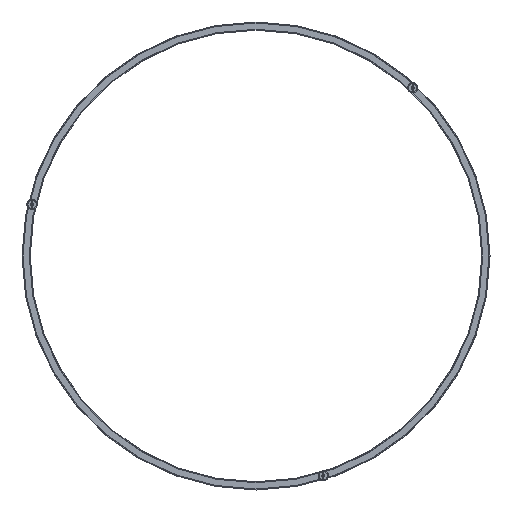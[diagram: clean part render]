
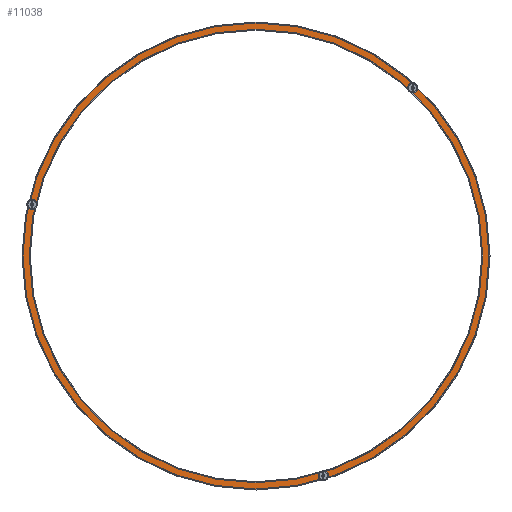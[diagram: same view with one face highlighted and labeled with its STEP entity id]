
A CAD part, front view. The second image highlights one B-rep face of the part: STEP entity #11038.
In plain terms, the highlighted planar face has unit normal (0, -1, 0) as drawn and (0, 0, 1) by its records, which use the part's own axes.
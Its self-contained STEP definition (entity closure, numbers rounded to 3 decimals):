
#135 = VERTEX_POINT ( 'NONE', #2789 ) ;
#358 = EDGE_LOOP ( 'NONE', ( #7844, #4957 ) ) ;
#415 = EDGE_CURVE ( 'NONE', #5694, #1648, #6814, .T. ) ;
#669 = DIRECTION ( 'NONE',  ( 1., 0., 0. ) ) ;
#708 = AXIS2_PLACEMENT_3D ( 'NONE', #1392, #3329, #669 ) ;
#955 = CARTESIAN_POINT ( 'NONE',  ( 217.032, -704.439, 0.5 ) ) ;
#1008 = CIRCLE ( 'NONE', #1572, 6. ) ;
#1077 = CIRCLE ( 'NONE', #4046, 724.5 ) ;
#1250 = DIRECTION ( 'NONE',  ( 0., 0., 1. ) ) ;
#1268 = PLANE ( 'NONE',  #10442 ) ;
#1373 = VERTEX_POINT ( 'NONE', #6499 ) ;
#1392 = CARTESIAN_POINT ( 'NONE',  ( 217.032, -704.439, 0.5 ) ) ;
#1413 = CARTESIAN_POINT ( 'NONE',  ( 211.032, -704.439, 0.5 ) ) ;
#1516 = FACE_BOUND ( 'NONE', #4292, .T. ) ;
#1542 = CARTESIAN_POINT ( 'NONE',  ( -747.5, 0., 0.5 ) ) ;
#1572 = AXIS2_PLACEMENT_3D ( 'NONE', #2784, #10620, #3513 ) ;
#1648 = VERTEX_POINT ( 'NONE', #6170 ) ;
#1918 = AXIS2_PLACEMENT_3D ( 'NONE', #5498, #1250, #2120 ) ;
#2016 = CIRCLE ( 'NONE', #8316, 6. ) ;
#2070 = VERTEX_POINT ( 'NONE', #6257 ) ;
#2120 = DIRECTION ( 'NONE',  ( 1., 0., 0. ) ) ;
#2144 = EDGE_CURVE ( 'NONE', #3461, #2911, #2564, .T. ) ;
#2357 = CIRCLE ( 'NONE', #5554, 747.5 ) ;
#2486 = VERTEX_POINT ( 'NONE', #1413 ) ;
#2564 = CIRCLE ( 'NONE', #4752, 747.5 ) ;
#2761 = DIRECTION ( 'NONE',  ( -1., 0., 0. ) ) ;
#2784 = CARTESIAN_POINT ( 'NONE',  ( 502.767, 539.143, 0.5 ) ) ;
#2789 = CARTESIAN_POINT ( 'NONE',  ( 724.5, 0., 0.5 ) ) ;
#2911 = VERTEX_POINT ( 'NONE', #1542 ) ;
#3059 = CARTESIAN_POINT ( 'NONE',  ( -723.131, 164.738, 0.5 ) ) ;
#3079 = DIRECTION ( 'NONE',  ( 0., 0., 1. ) ) ;
#3107 = CARTESIAN_POINT ( 'NONE',  ( -717.131, 164.738, 0.5 ) ) ;
#3262 = DIRECTION ( 'NONE',  ( 0., 0., 1. ) ) ;
#3329 = DIRECTION ( 'NONE',  ( 0., 0., -1. ) ) ;
#3368 = DIRECTION ( 'NONE',  ( 0., 0., 1. ) ) ;
#3461 = VERTEX_POINT ( 'NONE', #6329 ) ;
#3513 = DIRECTION ( 'NONE',  ( 1., 0., 0. ) ) ;
#3581 = ORIENTED_EDGE ( 'NONE', *, *, #7613, .T. ) ;
#3781 = EDGE_CURVE ( 'NONE', #10130, #135, #5656, .T. ) ;
#4012 = CARTESIAN_POINT ( 'NONE',  ( 223.032, -704.439, 0.5 ) ) ;
#4046 = AXIS2_PLACEMENT_3D ( 'NONE', #6111, #6866, #10495 ) ;
#4260 = DIRECTION ( 'NONE',  ( -1., 0., 0. ) ) ;
#4277 = AXIS2_PLACEMENT_3D ( 'NONE', #955, #11202, #9572 ) ;
#4292 = EDGE_LOOP ( 'NONE', ( #11218, #7925 ) ) ;
#4752 = AXIS2_PLACEMENT_3D ( 'NONE', #10608, #9826, #2761 ) ;
#4957 = ORIENTED_EDGE ( 'NONE', *, *, #2144, .T. ) ;
#5064 = EDGE_LOOP ( 'NONE', ( #9414, #8810 ) ) ;
#5193 = CIRCLE ( 'NONE', #708, 6. ) ;
#5198 = FACE_BOUND ( 'NONE', #5064, .T. ) ;
#5498 = CARTESIAN_POINT ( 'NONE',  ( -717.131, 164.738, 0.5 ) ) ;
#5554 = AXIS2_PLACEMENT_3D ( 'NONE', #8563, #3368, #4260 ) ;
#5656 = CIRCLE ( 'NONE', #9981, 724.5 ) ;
#5694 = VERTEX_POINT ( 'NONE', #3059 ) ;
#5887 = DIRECTION ( 'NONE',  ( -1., 0., 0. ) ) ;
#5990 = EDGE_LOOP ( 'NONE', ( #3581, #8909 ) ) ;
#6111 = CARTESIAN_POINT ( 'NONE',  ( 0., 0., 0.5 ) ) ;
#6170 = CARTESIAN_POINT ( 'NONE',  ( -711.131, 164.738, 0.5 ) ) ;
#6257 = CARTESIAN_POINT ( 'NONE',  ( 508.767, 539.143, 0.5 ) ) ;
#6300 = ORIENTED_EDGE ( 'NONE', *, *, #7213, .T. ) ;
#6329 = CARTESIAN_POINT ( 'NONE',  ( 747.5, 0., 0.5 ) ) ;
#6499 = CARTESIAN_POINT ( 'NONE',  ( 496.767, 539.143, 0.5 ) ) ;
#6814 = CIRCLE ( 'NONE', #8477, 6. ) ;
#6866 = DIRECTION ( 'NONE',  ( 0., 0., -1. ) ) ;
#7213 = EDGE_CURVE ( 'NONE', #135, #10130, #1077, .T. ) ;
#7257 = EDGE_CURVE ( 'NONE', #2486, #8493, #7863, .T. ) ;
#7466 = EDGE_CURVE ( 'NONE', #1648, #5694, #9210, .T. ) ;
#7590 = DIRECTION ( 'NONE',  ( 0., 0., -1. ) ) ;
#7613 = EDGE_CURVE ( 'NONE', #2070, #1373, #2016, .T. ) ;
#7623 = FACE_BOUND ( 'NONE', #5990, .T. ) ;
#7844 = ORIENTED_EDGE ( 'NONE', *, *, #7854, .T. ) ;
#7854 = EDGE_CURVE ( 'NONE', #2911, #3461, #2357, .T. ) ;
#7863 = CIRCLE ( 'NONE', #4277, 6. ) ;
#7915 = FACE_OUTER_BOUND ( 'NONE', #358, .T. ) ;
#7925 = ORIENTED_EDGE ( 'NONE', *, *, #7257, .T. ) ;
#8207 = CARTESIAN_POINT ( 'NONE',  ( -756.47, -756.47, 0.5 ) ) ;
#8316 = AXIS2_PLACEMENT_3D ( 'NONE', #11031, #10921, #8337 ) ;
#8337 = DIRECTION ( 'NONE',  ( 1., 0., 0. ) ) ;
#8477 = AXIS2_PLACEMENT_3D ( 'NONE', #3107, #3262, #10978 ) ;
#8493 = VERTEX_POINT ( 'NONE', #4012 ) ;
#8563 = CARTESIAN_POINT ( 'NONE',  ( 0., 0., 0.5 ) ) ;
#8810 = ORIENTED_EDGE ( 'NONE', *, *, #415, .F. ) ;
#8824 = EDGE_CURVE ( 'NONE', #1373, #2070, #1008, .T. ) ;
#8909 = ORIENTED_EDGE ( 'NONE', *, *, #8824, .T. ) ;
#9101 = DIRECTION ( 'NONE',  ( 1., 0., 0. ) ) ;
#9210 = CIRCLE ( 'NONE', #1918, 6. ) ;
#9341 = CARTESIAN_POINT ( 'NONE',  ( 0., 0., 0.5 ) ) ;
#9414 = ORIENTED_EDGE ( 'NONE', *, *, #7466, .F. ) ;
#9572 = DIRECTION ( 'NONE',  ( 1., 0., 0. ) ) ;
#9826 = DIRECTION ( 'NONE',  ( 0., 0., 1. ) ) ;
#9866 = EDGE_LOOP ( 'NONE', ( #10444, #6300 ) ) ;
#9870 = EDGE_CURVE ( 'NONE', #8493, #2486, #5193, .T. ) ;
#9981 = AXIS2_PLACEMENT_3D ( 'NONE', #9341, #7590, #5887 ) ;
#10130 = VERTEX_POINT ( 'NONE', #10487 ) ;
#10233 = FACE_BOUND ( 'NONE', #9866, .T. ) ;
#10442 = AXIS2_PLACEMENT_3D ( 'NONE', #8207, #3079, #9101 ) ;
#10444 = ORIENTED_EDGE ( 'NONE', *, *, #3781, .T. ) ;
#10487 = CARTESIAN_POINT ( 'NONE',  ( -724.5, 0., 0.5 ) ) ;
#10495 = DIRECTION ( 'NONE',  ( -1., 0., 0. ) ) ;
#10608 = CARTESIAN_POINT ( 'NONE',  ( 0., 0., 0.5 ) ) ;
#10620 = DIRECTION ( 'NONE',  ( 0., 0., -1. ) ) ;
#10921 = DIRECTION ( 'NONE',  ( 0., 0., -1. ) ) ;
#10978 = DIRECTION ( 'NONE',  ( 1., 0., 0. ) ) ;
#11031 = CARTESIAN_POINT ( 'NONE',  ( 502.767, 539.143, 0.5 ) ) ;
#11038 = ADVANCED_FACE ( 'NONE', ( #10233, #7623, #1516, #5198, #7915 ), #1268, .T. ) ;
#11202 = DIRECTION ( 'NONE',  ( 0., 0., -1. ) ) ;
#11218 = ORIENTED_EDGE ( 'NONE', *, *, #9870, .T. ) ;
